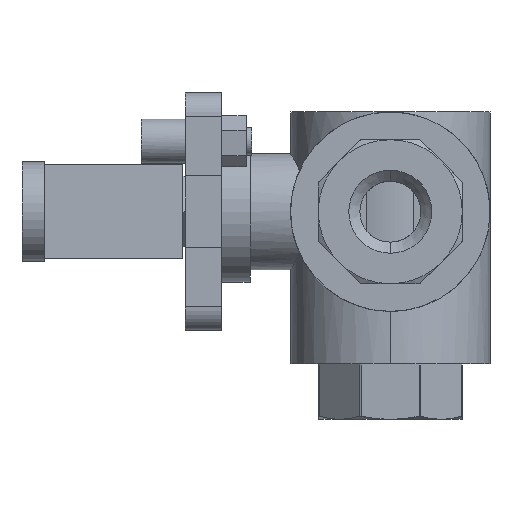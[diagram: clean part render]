
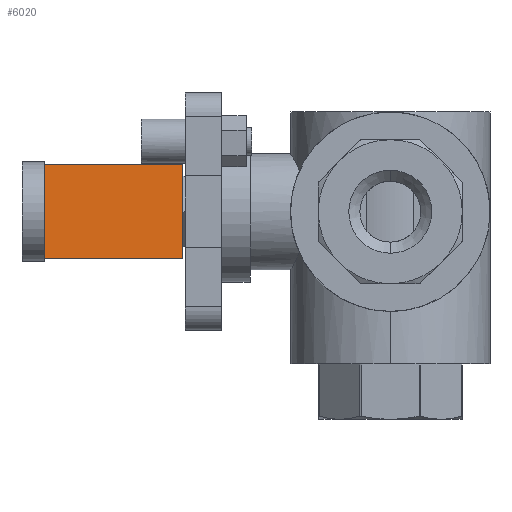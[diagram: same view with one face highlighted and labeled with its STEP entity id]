
A CAD part, left-side view. The second image highlights one B-rep face of the part: STEP entity #6020.
In plain terms, the highlighted planar face has unit normal (-0.707, -0.707, 0).
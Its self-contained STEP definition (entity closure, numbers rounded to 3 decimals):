
#155 = ORIENTED_EDGE ( 'NONE', *, *, #384, .F. ) ;
#163 = DIRECTION ( 'NONE',  ( 0., 0., -1. ) ) ;
#230 = CARTESIAN_POINT ( 'NONE',  ( -47., 63., 8.5 ) ) ;
#384 = EDGE_CURVE ( 'NONE', #6344, #1777, #5976, .T. ) ;
#777 = DIRECTION ( 'NONE',  ( 0.707, -0.707, 0. ) ) ;
#1146 = LINE ( 'NONE', #6778, #6609 ) ;
#1250 = CARTESIAN_POINT ( 'NONE',  ( -47., 63., -8.5 ) ) ;
#1260 = CARTESIAN_POINT ( 'NONE',  ( -47., 63., -8.5 ) ) ;
#1286 = CARTESIAN_POINT ( 'NONE',  ( -47., 63., 8.5 ) ) ;
#1777 = VERTEX_POINT ( 'NONE', #2888 ) ;
#1807 = DIRECTION ( 'NONE',  ( -0.707, 0.707, 0. ) ) ;
#1835 = LINE ( 'NONE', #1250, #4466 ) ;
#1996 = LINE ( 'NONE', #4907, #2728 ) ;
#2034 = FACE_OUTER_BOUND ( 'NONE', #2572, .T. ) ;
#2285 = EDGE_CURVE ( 'NONE', #6344, #2318, #1996, .T. ) ;
#2318 = VERTEX_POINT ( 'NONE', #1260 ) ;
#2439 = EDGE_CURVE ( 'NONE', #2318, #5636, #1835, .T. ) ;
#2572 = EDGE_LOOP ( 'NONE', ( #3070, #3130, #155, #3153 ) ) ;
#2728 = VECTOR ( 'NONE', #163, 1000. ) ;
#2888 = CARTESIAN_POINT ( 'NONE',  ( -21.5, 37.5, 8.5 ) ) ;
#3070 = ORIENTED_EDGE ( 'NONE', *, *, #2439, .T. ) ;
#3130 = ORIENTED_EDGE ( 'NONE', *, *, #4395, .F. ) ;
#3153 = ORIENTED_EDGE ( 'NONE', *, *, #2285, .T. ) ;
#3157 = VECTOR ( 'NONE', #777, 1000. ) ;
#3281 = CARTESIAN_POINT ( 'NONE',  ( -21.5, 37.5, -8.5 ) ) ;
#4040 = AXIS2_PLACEMENT_3D ( 'NONE', #1286, #4969, #1807 ) ;
#4395 = EDGE_CURVE ( 'NONE', #1777, #5636, #1146, .T. ) ;
#4415 = DIRECTION ( 'NONE',  ( 0.707, -0.707, 0. ) ) ;
#4426 = PLANE ( 'NONE',  #4040 ) ;
#4466 = VECTOR ( 'NONE', #4415, 1000. ) ;
#4907 = CARTESIAN_POINT ( 'NONE',  ( -47., 63., 8.5 ) ) ;
#4969 = DIRECTION ( 'NONE',  ( 0.707, 0.707, 0. ) ) ;
#5187 = DIRECTION ( 'NONE',  ( 0., 0., -1. ) ) ;
#5636 = VERTEX_POINT ( 'NONE', #3281 ) ;
#5976 = LINE ( 'NONE', #230, #3157 ) ;
#6020 = ADVANCED_FACE ( 'NONE', ( #2034 ), #4426, .F. ) ;
#6303 = CARTESIAN_POINT ( 'NONE',  ( -47., 63., 8.5 ) ) ;
#6344 = VERTEX_POINT ( 'NONE', #6303 ) ;
#6609 = VECTOR ( 'NONE', #5187, 1000. ) ;
#6778 = CARTESIAN_POINT ( 'NONE',  ( -21.5, 37.5, 8.5 ) ) ;
